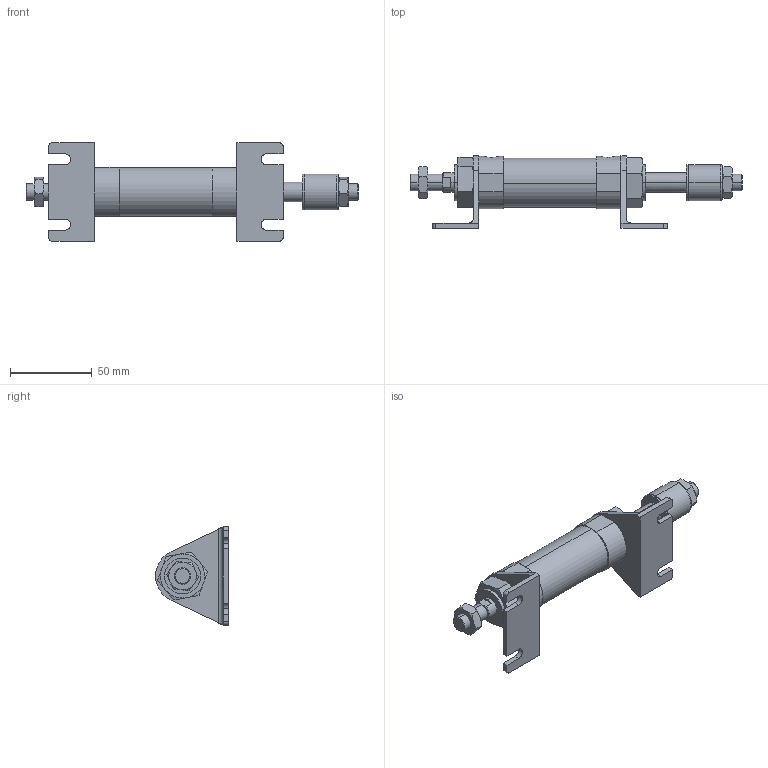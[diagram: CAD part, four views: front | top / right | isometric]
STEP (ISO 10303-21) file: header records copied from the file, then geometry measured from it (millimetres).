
FILE_DESCRIPTION (( 'STEP AP203' ), '1' );
FILE_NAME ('JGA7-25-25-L.STEP', '2016-04-20T01:55:41', ( '' ), ( '' ), 'SwSTEP 2.0', 'SolidWorks 2014', '' );
FILE_SCHEMA (( 'CONFIG_CONTROL_DESIGN' ));
Length unit declared in the file: millimetre
Products named in the file (8): M22x1.5-10mm; JGA7-25-25-L; JGLH2-25B; 25-25; JGA7-25A-25; JGA7-25-Turn; J#2-25-L; M10x1.5-6mm
Assembly tree (10 placements, depth 2):
  JGA7-25-25-L
    JGLH2-25B
    25-25
    JGA7-25A-25
    M10x1.5-6mm  x2
    J#2-25-L  x2
    M22x1.5-10mm  x2
    JGA7-25-Turn
Bounding box: 203 x 44.5 x 60 mm (x, y, z)
Volume: 113087 mm3; surface area: 41038 mm2
Topology: 10 solids, 10 shells, 223 faces, 512 edges, 316 vertices
Faces by surface type: plane 95, cylinder 66, torus 50, cone 12
Entity records: 5518 total; most frequent: CARTESIAN_POINT 1164, DIRECTION 752, ORIENTED_EDGE 684, EDGE_CURVE 342, AXIS2_PLACEMENT_3D 306, VERTEX_POINT 214, EDGE_LOOP 172, ADVANCED_FACE 153
